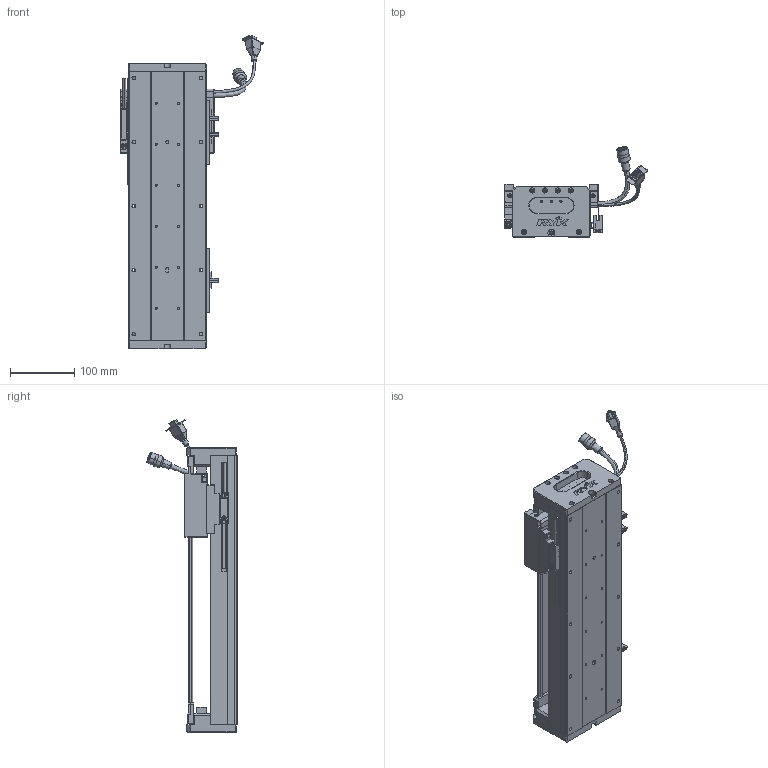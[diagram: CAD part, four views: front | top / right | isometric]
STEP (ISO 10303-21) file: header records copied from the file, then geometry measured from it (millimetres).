
FILE_DESCRIPTION (( 'STEP AP203' ), '1' );
FILE_NAME ('Z1-RY120D-1-L500-B-K.SLDASM_0250.step', '2021-05-17T03:44:27', ( '盈信电脑' ), ( '东莞市道滘镇水果街19号' ), 'SwSTEP 2.0', 'SolidWorks 2016', '' );
FILE_SCHEMA (( 'CONFIG_CONTROL_DESIGN' ));
Length unit declared in the file: millimetre
Products named in the file (37): LABEL-Part-1; Z-RY120D詩湍奻揤裔; 120-Z-臏賑輸盄裔(21遴); COVER; SCREW-M1.6; Z-120詩湍傷裔啣; HARNESS; SCREW-M1.7-1; SCREW-M1.6-3; SEAL; HOLDER0; Z-RY120D詩湍狟揤裔; Z1-RY120-L500詩湍100mm遵_0250; 672嫖萇羲壽假蚾釱; 140雄赽晤鎢ん堤盄; SHIELDPLATE; SCALE-Part-1; HARNESS-Part-2; 140蚥薯蝶輸; 榋妏寠巭燃_暯_M2_2; PBU_SHEET; SCALE-Part-2; SEAL-Part-1; SCREW-M1.6-2; RY100FB-遵嫖萇覜茼え; SCREW-M1.7; HARNESS-Part-1; 080黍杅芛假蚾釱21遴; LABEL; Z1-RY120铝滑块（21款）; PSLH080_PSLF2; COVER-Part-1; Z1-RY120-500-倰第菁釱_0250; SCALE; 覜茼ん672; Z1-RY120D-1-L500-B-K.SLDASM_0250; SCREW-M1.6-1
Assembly tree (43 placements, depth 4):
  Z1-RY120D-1-L500-B-K.SLDASM_0250
    Z1-RY120-500-倰第菁釱_0250
    覜茼ん672  x3
    672嫖萇羲壽假蚾釱  x2
    Z1-RY120铝滑块（21款）
    PSLH080_PSLF2
      SCALE
        SCALE-Part-1
        SCALE-Part-2
      HARNESS
        HARNESS-Part-1
        HARNESS-Part-2
      LABEL
        LABEL-Part-1
      COVER
        COVER-Part-1
      SEAL
        SEAL-Part-1
      榋妏寠巭燃_暯_M2_2
      SHIELDPLATE
      SCREW-M1.7
      SCREW-M1.7-1
      PBU_SHEET
      SCREW-M1.6
      SCREW-M1.6-1
      SCREW-M1.6-2
      SCREW-M1.6-3
      HOLDER0
    080黍杅芛假蚾釱21遴
    120-Z-臏賑輸盄裔(21遴)
    140雄赽晤鎢ん堤盄
    140蚥薯蝶輸  x2
    RY100FB-遵嫖萇覜茼え
    Z-120詩湍傷裔啣  x2
    Z-RY120D詩湍奻揤裔  x2
    Z-RY120D詩湍狟揤裔  x2
    Z1-RY120-L500詩湍100mm遵_0250
Bounding box: 222.88 x 140.94 x 489 mm (x, y, z)
Volume: 1542329.6 mm3; surface area: 523926.6 mm2
Topology: 38 solids, 38 shells, 2425 faces, 6386 edges, 4044 vertices
Faces by surface type: plane 1071, cylinder 1010, cone 222, torus 69, bspline 53
Entity records: 68567 total; most frequent: CARTESIAN_POINT 16960, DIRECTION 9964, ORIENTED_EDGE 9852, EDGE_CURVE 4926, AXIS2_PLACEMENT_3D 3594, VERTEX_POINT 3164, VECTOR 2776, LINE 2776
